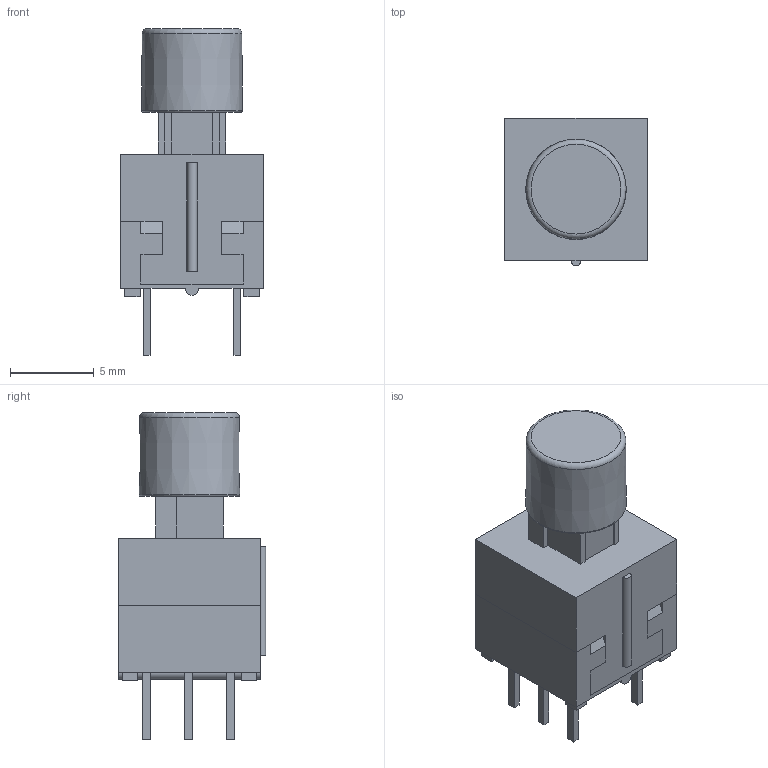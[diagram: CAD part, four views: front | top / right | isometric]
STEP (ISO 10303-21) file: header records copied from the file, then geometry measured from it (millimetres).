
FILE_DESCRIPTION(/* description */ (''),/* implementation_level */ '2;1');
FILE_NAME(/* name */ 'SW_Push_GPBS-850.step',/* time_stamp */ '2026-03-04T11:54:46Z',/* author */ (''),/* organization */ (''),/* preprocessor_version */ 'ST-DEVELOPER v20.1',/* originating_system */ 'Autodesk Translation Framework v14.24.0.0',/* authorisation */ '');
FILE_SCHEMA (('AUTOMOTIVE_DESIGN { 1 0 10303 214 3 1 1 }'));
Length unit declared in the file: millimetre
Products named in the file (3): SW_TL2201_Push; Body; Cap
Assembly tree (2 placements, depth 2):
  SW_TL2201_Push
    Body
    Cap
Bounding box: 8.5 x 8.8 x 19.5 mm (x, y, z)
Volume: 548.5 mm3; surface area: 1492.9 mm2
Topology: 12 solids, 12 shells, 311 faces, 835 edges, 552 vertices
Faces by surface type: plane 298, cylinder 10, torus 2, cone 1
Entity records: 9638 total; most frequent: CARTESIAN_POINT 1703, ORIENTED_EDGE 1670, DIRECTION 1489, EDGE_CURVE 835, LINE 813, VECTOR 813, VERTEX_POINT 552, AXIS2_PLACEMENT_3D 338
